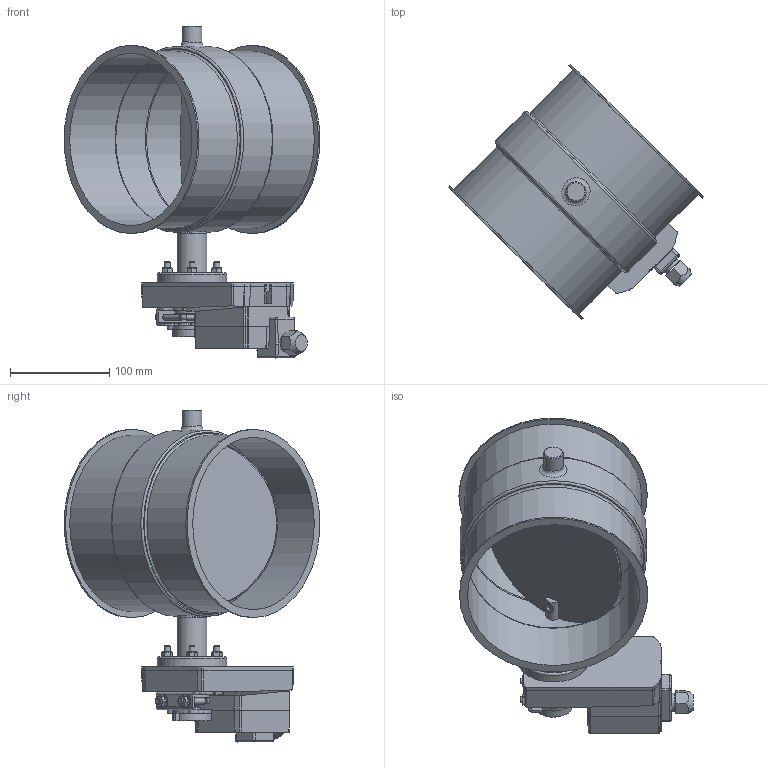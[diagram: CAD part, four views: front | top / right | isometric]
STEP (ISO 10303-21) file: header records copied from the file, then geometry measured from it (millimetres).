
FILE_DESCRIPTION((''),'2;1');
FILE_NAME('U:\Wolfgang\Marcel-3D\fertig\Kapitel 8\1721214.stp','2011-05-03T14:59:57',('TK1'),(''),'Autodesk Inventor 2010','Autodesk Inventor 2010','');
FILE_SCHEMA(('AUTOMOTIVE_DESIGN { 1 0 10303 214 1 1 1 1 }'));
Length unit declared in the file: millimetre
Products named in the file (11): 1721214; Bolzen D15; Scheibe170b; DIN 6912 M6 x 16; 1721210-1; SM24A-Antrieb; BuchseD15 70-50; Distanzstück S; SM24A--A_standard_terminal_1cable; DIN 7991 M6x25; DIN 555 - ersetzt durch DIN EN 24034 M6
Assembly tree (18 placements, depth 3):
  1721214
    Bolzen D15  x2
    Scheibe170b
    DIN 6912 M6 x 16  x2
    1721210-1
    SM24A-Antrieb
      BuchseD15 70-50
      Distanzstück S
      SM24A--A_standard_terminal_1cable
      DIN 7991 M6x25  x4
      DIN 555 - ersetzt durch DIN EN 24034 M6  x4
Bounding box: 258.13 x 258.06 x 335 mm (x, y, z)
Volume: 982896.7 mm3; surface area: 432327.7 mm2
Topology: 20 solids, 20 shells, 728 faces, 1799 edges, 1150 vertices
Faces by surface type: plane 381, cylinder 187, bspline 90, cone 38, torus 24, sphere 8
Full cylindrical faces by diameter (mm): 3 x2, 3.6 x2, 4.2 x4, 4.773 x4, 4.813 x4, 5.1 x1, 5.25 x4, 6 x14, 7 x4, 9.742 x1, 10 x4, 10.083 x1, 12 x4, 14 x2, 15 x6, 15.5 x1, 18.5 x1, 20 x1, 24 x1, 25.194 x1, 26 x2, 30 x2, 30.042 x1, 35 x2, 70 x1, 174 x3, 175 x1, 178 x2, 183 x1, 184 x1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
Entity records: 20446 total; most frequent: CARTESIAN_POINT 5550, ORIENTED_EDGE 2868, DIRECTION 2784, EDGE_CURVE 1434, AXIS2_PLACEMENT_3D 1002, VERTEX_POINT 983, EDGE_LOOP 819, VECTOR 780
